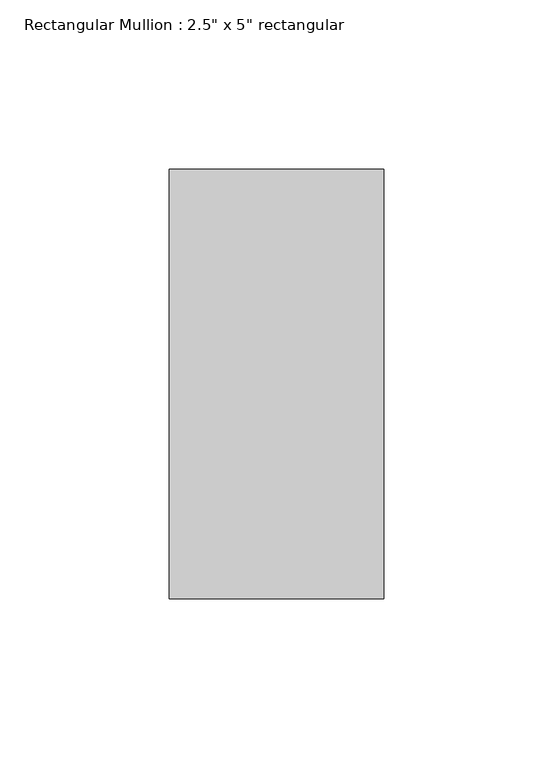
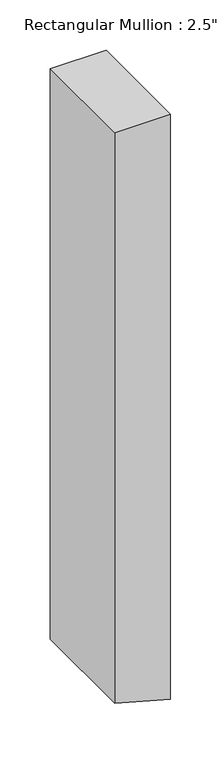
"""IFC4 building model written with IfcOpenShell, lengths in millimetres: member geometry."""

from ifc_helpers import new_model, si_unit, frame, origin, place, context, project, spatial, circle_curve, source, transform, mapped, element, save
from ifc_brep_helpers import plane_surface, cylinder_surface, advanced_brep


def member_7b70a9c6(model_context):
    return source(origin(), model_context, "Body", "AdvancedBrep", [
        advanced_brep(
        [(31.75, 63.5, 0.0), (-31.75, 63.5, 0.0), (-31.75, -63.5, 0.0), (31.75, -63.5, 0.0), (31.75, 63.5, -707.0385107), (16.5451442, 63.5, -702.970122), (-31.75, 63.5, -689.5807919), (-31.75, -63.5, -689.5807919), (16.5451442, -63.5, -702.970122), (31.75, -63.5, -707.0385107)],
        [
            (0, 1),
            (1, 2),
            (2, 3),
            (3, 0),
            (0, 4),
            (4, 5, circle_curve(frame((969.8308928, 63.5, 2829.3140133), z_axis=(0.0, 1.0, 0.0), x_axis=(-0.001244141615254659, 0.0, -0.9999992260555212)), 3658.6588985)),
            (5, 6, circle_curve(frame((969.8308928, 63.5, 2829.3140133), z_axis=(0.0, 1.0, 0.0), x_axis=(-0.2605560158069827, 0.0, -0.9654587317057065)), 3658.6588985)),
            (6, 1),
            (6, 7),
            (7, 2),
            (7, 8, circle_curve(frame((969.8308928, -63.5, 2829.3140133), z_axis=(0.0, -1.0, 0.0), x_axis=(-0.2605560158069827, 0.0, -0.9654587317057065)), 3658.6588985)),
            (8, 9, circle_curve(frame((969.8308928, -63.5, 2829.3140133), z_axis=(0.0, -1.0, 0.0), x_axis=(-0.001244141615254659, 0.0, -0.9999992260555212)), 3658.6588985)),
            (9, 3),
            (9, 4),
            (8, 5),
        ],
        [
            plane_surface(frame((0.0, -70.9951583, 0.0), z_axis=(0.0, 0.0, 1.0), x_axis=(-1.0, 0.0, 0.0))),
            plane_surface(frame((31.75, 63.5, 0.0), z_axis=(0.0, 1.0, 0.0), x_axis=(0.0, 0.0, -1.0))),
            plane_surface(frame((-31.75, 63.5, 0.0), z_axis=(-1.0, 0.0, 0.0), x_axis=(0.0, 0.0, -1.0))),
            plane_surface(frame((-31.75, -63.5, 0.0), z_axis=(0.0, -1.0, 0.0), x_axis=(0.0, 0.0, -1.0))),
            plane_surface(frame((31.75, -63.5, 0.0), z_axis=(1.0, 0.0, 0.0), x_axis=(0.0, 0.0, -1.0))),
            cylinder_surface(frame((969.8308928, 0.0, 2829.3140133), z_axis=(0.0, 1.0, 0.0), x_axis=(-0.001244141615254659, 0.0, -0.9999992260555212)), 3658.6588985),
            cylinder_surface(frame((969.8308928, 0.0, 2829.3140133), z_axis=(0.0, 1.0, 0.0), x_axis=(-0.2605560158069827, 0.0, -0.9654587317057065)), 3658.6588985),
        ],
        [
            (0, [[1, 2, 3, 4]]),
            (1, [[-1, 5, 6, 7, 8]]),
            (2, [[-2, -8, 9, 10]]),
            (3, [[-3, -10, 11, 12, 13]]),
            (4, [[-4, -13, 14, -5]]),
            (5, [[-14, -12, 15, -6]]),
            (6, [[-11, -9, -7, -15]]),
        ],
    ),
    ])


if __name__ == "__main__":
    model = new_model("IFC4")
    model_context = context("Model", 3, world=origin())
    ifc_project = project(units=[si_unit("LENGTHUNIT", "METRE", prefix="MILLI")], contexts=[model_context])
    site = spatial("IfcSite", under=ifc_project)
    building = spatial("IfcBuilding", under=site)
    placement = place(None, origin())
    member_shape = member_7b70a9c6(model_context)
    element("IfcMember", 1, ObjectType="Rectangular Mullion : 2.5\" x 5\" rectangular", at=placement, inside=building, context=model_context, shape_type="MappedRepresentation", body=[
        mapped(member_shape, transform((0.0, 0.0, 0.0), x_axis=(1.0, 0.0, 0.0), y_axis=(0.0, 1.0, 0.0), z_axis=(0.0, 0.0, 1.0))),
    ])
    save(model, "model.ifc")
